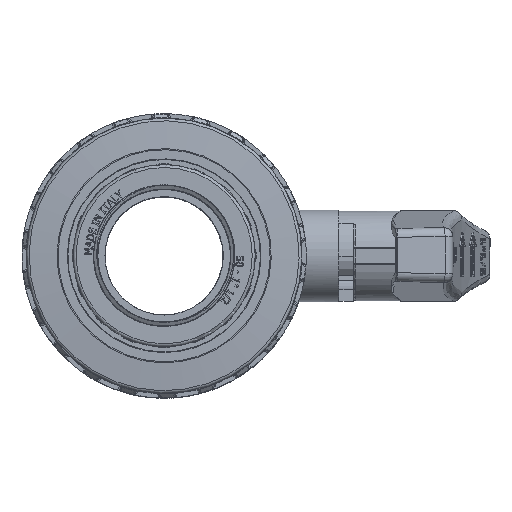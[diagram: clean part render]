
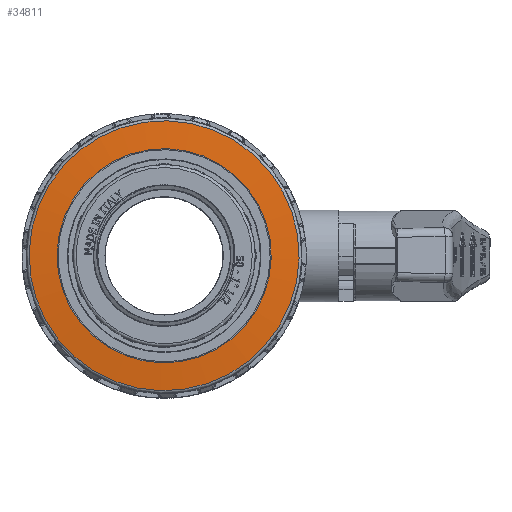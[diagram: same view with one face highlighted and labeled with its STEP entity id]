
A CAD part, top view. The second image highlights one B-rep face of the part: STEP entity #34811.
In plain terms, the highlighted conical face has half-angle 85 degrees and reference radius 41.25 mm.
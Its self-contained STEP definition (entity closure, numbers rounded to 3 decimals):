
#616=CONICAL_SURFACE('',#37682,41.25,1.484);
#1463=FACE_BOUND('',#8066,.T.);
#3736=CIRCLE('',#37681,36.174);
#3737=CIRCLE('',#37683,45.587);
#5843=FACE_OUTER_BOUND('',#8065,.T.);
#8065=EDGE_LOOP('',(#29952));
#8066=EDGE_LOOP('',(#29953));
#16109=VERTEX_POINT('',#86107);
#16110=VERTEX_POINT('',#86110);
#20807=EDGE_CURVE('',#16109,#16109,#3736,.T.);
#20808=EDGE_CURVE('',#16110,#16110,#3737,.T.);
#29952=ORIENTED_EDGE('',*,*,#20808,.F.);
#29953=ORIENTED_EDGE('',*,*,#20807,.F.);
#34811=ADVANCED_FACE('',(#5843,#1463),#616,.T.);
#37681=AXIS2_PLACEMENT_3D('',#86108,#45215,#45216);
#37682=AXIS2_PLACEMENT_3D('',#86109,#45217,#45218);
#37683=AXIS2_PLACEMENT_3D('',#86111,#45219,#45220);
#45215=DIRECTION('center_axis',(-1.,0.,0.));
#45216=DIRECTION('ref_axis',(0.,-1.,0.));
#45217=DIRECTION('center_axis',(1.,0.,0.));
#45218=DIRECTION('ref_axis',(0.,1.,0.));
#45219=DIRECTION('center_axis',(1.,0.,0.));
#45220=DIRECTION('ref_axis',(0.,-1.,0.));
#86107=CARTESIAN_POINT('',(0.015,36.174,0.));
#86108=CARTESIAN_POINT('Origin',(0.015,0.,0.));
#86109=CARTESIAN_POINT('Origin',(0.459,0.,0.));
#86110=CARTESIAN_POINT('',(0.839,45.587,0.));
#86111=CARTESIAN_POINT('Origin',(0.839,0.,0.));
